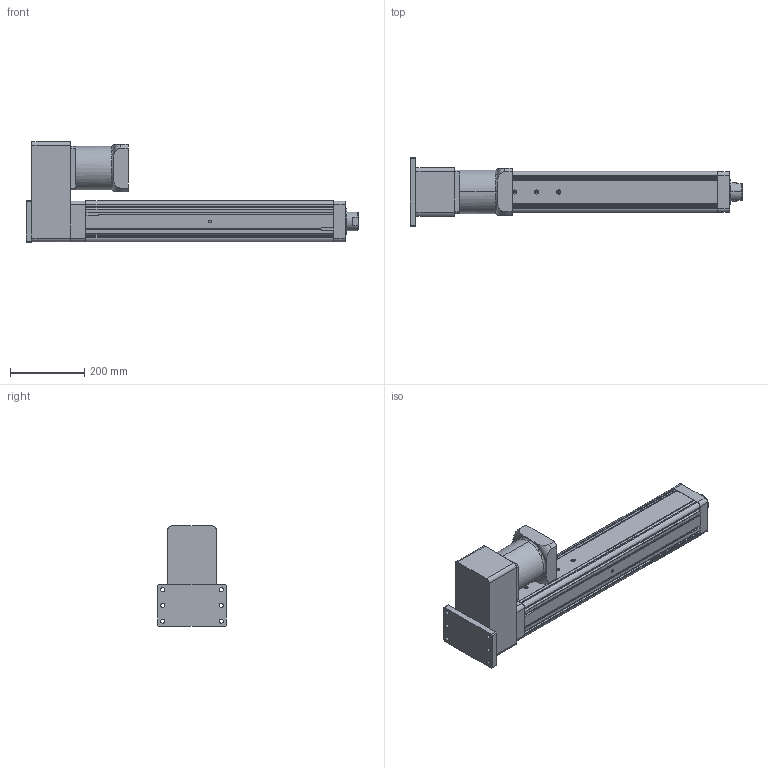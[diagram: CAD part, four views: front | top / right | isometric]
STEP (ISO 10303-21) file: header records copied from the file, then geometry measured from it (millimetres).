
FILE_DESCRIPTION (( 'STEP AP203' ), '1' );
FILE_NAME ('YRJ110-L500-H4K2.STEP', '2020-01-06T01:50:33', ( 'User' ), ( 'China' ), 'SwSTEP 2.0', 'SolidWorks 2016', '' );
FILE_SCHEMA (( 'CONFIG_CONTROL_DESIGN' ));
Length unit declared in the file: millimetre
Products named in the file (8): K2-110; YRJ110-L500-H4K2; 095-100俴最倰第; H5-110-1; 萇儂碟-110; H3-110-2; H4-110; 120遺1500W珨撰熬厒儂
Assembly tree (7 placements, depth 2):
  YRJ110-L500-H4K2
    095-100俴最倰第
    H5-110-1
    萇儂碟-110
    H3-110-2
    H4-110
    120遺1500W珨撰熬厒儂
    K2-110
Bounding box: 897 x 185 x 271 mm (x, y, z)
Volume: 9435389.3 mm3; surface area: 1000783.8 mm2
Topology: 7 solids, 7 shells, 320 faces, 865 edges, 553 vertices
Faces by surface type: plane 160, cylinder 122, cone 29, torus 5, bspline 4
Entity records: 11223 total; most frequent: CARTESIAN_POINT 2196, DIRECTION 1739, ORIENTED_EDGE 1698, EDGE_CURVE 849, AXIS2_PLACEMENT_3D 602, VERTEX_POINT 553, LINE 535, VECTOR 535
